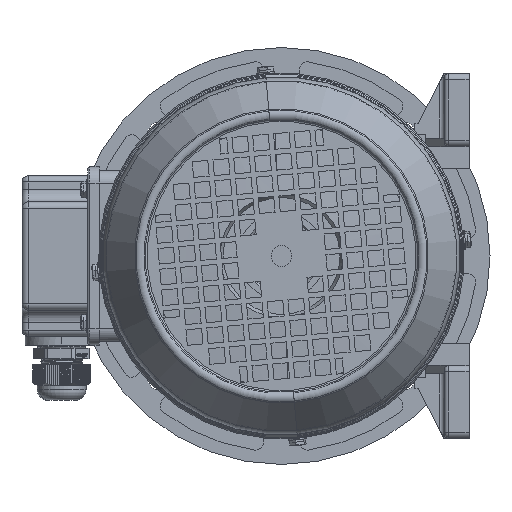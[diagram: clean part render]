
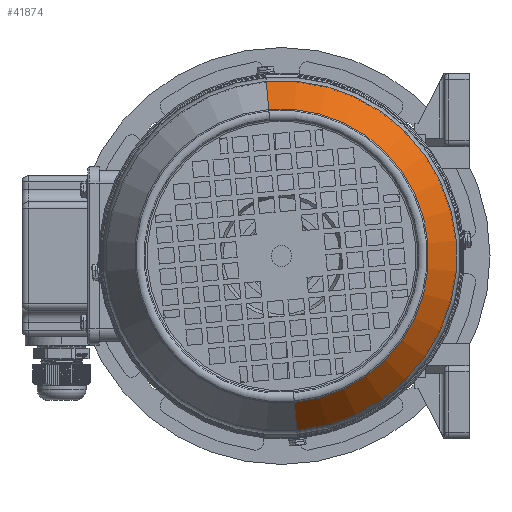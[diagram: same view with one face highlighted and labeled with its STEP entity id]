
A CAD part, left-side view. The second image highlights one B-rep face of the part: STEP entity #41874.
In plain terms, the highlighted conical face has half-angle 32.805 degrees and reference radius 85.75 mm.
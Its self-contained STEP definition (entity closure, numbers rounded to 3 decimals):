
#227 = CARTESIAN_POINT ( 'NONE',  ( -57., 0., 85.75 ) ) ;
#230 = EDGE_CURVE ( 'NONE', #89892, #18971, #81084, .T. ) ;
#325 = VECTOR ( 'NONE', #41415, 1000. ) ;
#463 = VERTEX_POINT ( 'NONE', #47111 ) ;
#1730 = CARTESIAN_POINT ( 'NONE',  ( -80.625, 0., -70.522 ) ) ;
#8358 = DIRECTION ( 'NONE',  ( -1., 0., 0. ) ) ;
#9651 = DIRECTION ( 'NONE',  ( 0.841, 0., 0.542 ) ) ;
#11177 = AXIS2_PLACEMENT_3D ( 'NONE', #73250, #8358, #82594 ) ;
#17866 = LINE ( 'NONE', #68343, #325 ) ;
#18503 = CIRCLE ( 'NONE', #81485, 70.522 ) ;
#18971 = VERTEX_POINT ( 'NONE', #54078 ) ;
#25704 = EDGE_LOOP ( 'NONE', ( #72761, #59352, #71296, #69691 ) ) ;
#35190 = DIRECTION ( 'NONE',  ( 1., 0., 0. ) ) ;
#41415 = DIRECTION ( 'NONE',  ( 0.841, 0., -0.542 ) ) ;
#41874 = ADVANCED_FACE ( 'NONE', ( #92661 ), #67909, .T. ) ;
#47111 = CARTESIAN_POINT ( 'NONE',  ( -80.625, 0., 70.522 ) ) ;
#51632 = LINE ( 'NONE', #227, #95439 ) ;
#54078 = CARTESIAN_POINT ( 'NONE',  ( -59.474, 0., 84.155 ) ) ;
#59352 = ORIENTED_EDGE ( 'NONE', *, *, #61836, .F. ) ;
#61836 = EDGE_CURVE ( 'NONE', #76591, #463, #18503, .T. ) ;
#66396 = DIRECTION ( 'NONE',  ( -1., 0., 0. ) ) ;
#67909 = CONICAL_SURFACE ( 'NONE', #86326, 85.75, 0.573 ) ;
#68343 = CARTESIAN_POINT ( 'NONE',  ( -57., 0., -85.75 ) ) ;
#69691 = ORIENTED_EDGE ( 'NONE', *, *, #230, .T. ) ;
#71296 = ORIENTED_EDGE ( 'NONE', *, *, #106574, .T. ) ;
#71509 = CARTESIAN_POINT ( 'NONE',  ( -57., 0., 0. ) ) ;
#72761 = ORIENTED_EDGE ( 'NONE', *, *, #99205, .F. ) ;
#73250 = CARTESIAN_POINT ( 'NONE',  ( -59.474, 0., 0. ) ) ;
#76591 = VERTEX_POINT ( 'NONE', #1730 ) ;
#77285 = CARTESIAN_POINT ( 'NONE',  ( -59.474, 0., -84.155 ) ) ;
#81084 = CIRCLE ( 'NONE', #11177, 84.155 ) ;
#81485 = AXIS2_PLACEMENT_3D ( 'NONE', #85102, #66396, #104781 ) ;
#82594 = DIRECTION ( 'NONE',  ( 0., 0., 1. ) ) ;
#85102 = CARTESIAN_POINT ( 'NONE',  ( -80.625, 0., 0. ) ) ;
#86326 = AXIS2_PLACEMENT_3D ( 'NONE', #71509, #35190, #100456 ) ;
#89892 = VERTEX_POINT ( 'NONE', #77285 ) ;
#92661 = FACE_OUTER_BOUND ( 'NONE', #25704, .T. ) ;
#95439 = VECTOR ( 'NONE', #9651, 1000. ) ;
#99205 = EDGE_CURVE ( 'NONE', #463, #18971, #51632, .T. ) ;
#100456 = DIRECTION ( 'NONE',  ( 0., 0., -1. ) ) ;
#104781 = DIRECTION ( 'NONE',  ( 0., 0., 1. ) ) ;
#106574 = EDGE_CURVE ( 'NONE', #76591, #89892, #17866, .T. ) ;
